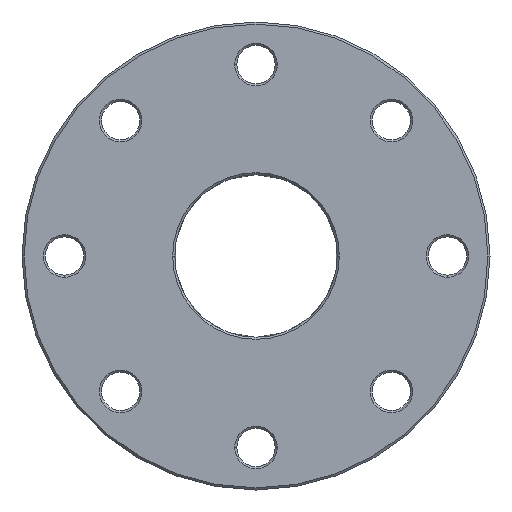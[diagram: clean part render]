
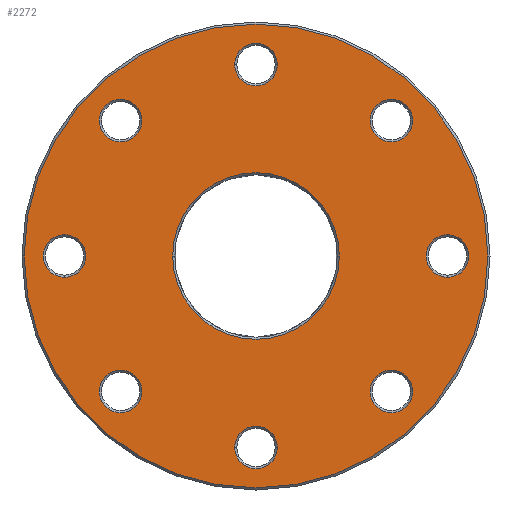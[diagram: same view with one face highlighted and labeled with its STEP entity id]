
A CAD part, front view. The second image highlights one B-rep face of the part: STEP entity #2272.
In plain terms, the highlighted planar face has unit normal (0, -1, 0).
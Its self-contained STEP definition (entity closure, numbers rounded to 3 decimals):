
#646=CARTESIAN_POINT('',(0.,-1.348,0.));
#647=DIRECTION('',(0.,1.,0.));
#648=DIRECTION('',(1.,0.,0.));
#649=AXIS2_PLACEMENT_3D('',#646,#647,#648);
#654=CARTESIAN_POINT('',(0.,-1.348,0.));
#655=DIRECTION('',(0.,1.,0.));
#656=DIRECTION('',(-1.,0.,0.));
#657=AXIS2_PLACEMENT_3D('',#654,#655,#656);
#662=CARTESIAN_POINT('',(-90.,-1.348,0.));
#663=DIRECTION('',(0.,1.,0.));
#664=DIRECTION('',(0.,0.,-1.));
#665=AXIS2_PLACEMENT_3D('',#662,#663,#664);
#670=CARTESIAN_POINT('',(-90.,-1.348,0.));
#671=DIRECTION('',(0.,1.,0.));
#672=DIRECTION('',(0.,0.,1.));
#673=AXIS2_PLACEMENT_3D('',#670,#671,#672);
#678=CARTESIAN_POINT('',(-63.64,-1.348,-63.64));
#679=DIRECTION('',(0.,1.,0.));
#680=DIRECTION('',(-0.707,0.,0.707));
#681=AXIS2_PLACEMENT_3D('',#678,#679,#680);
#686=CARTESIAN_POINT('',(-63.64,-1.348,-63.64));
#687=DIRECTION('',(0.,1.,0.));
#688=DIRECTION('',(0.707,0.,-0.707));
#689=AXIS2_PLACEMENT_3D('',#686,#687,#688);
#694=CARTESIAN_POINT('',(0.,-1.348,-90.));
#695=DIRECTION('',(0.,1.,0.));
#696=DIRECTION('',(1.,0.,0.));
#697=AXIS2_PLACEMENT_3D('',#694,#695,#696);
#702=CARTESIAN_POINT('',(0.,-1.348,-90.));
#703=DIRECTION('',(0.,1.,0.));
#704=DIRECTION('',(-1.,0.,0.));
#705=AXIS2_PLACEMENT_3D('',#702,#703,#704);
#710=CARTESIAN_POINT('',(63.64,-1.348,-63.64));
#711=DIRECTION('',(0.,1.,0.));
#712=DIRECTION('',(0.707,0.,0.707));
#713=AXIS2_PLACEMENT_3D('',#710,#711,#712);
#718=CARTESIAN_POINT('',(63.64,-1.348,-63.64));
#719=DIRECTION('',(0.,1.,0.));
#720=DIRECTION('',(-0.707,0.,-0.707));
#721=AXIS2_PLACEMENT_3D('',#718,#719,#720);
#726=CARTESIAN_POINT('',(90.,-1.348,0.));
#727=DIRECTION('',(0.,1.,0.));
#728=DIRECTION('',(0.,0.,1.));
#729=AXIS2_PLACEMENT_3D('',#726,#727,#728);
#734=CARTESIAN_POINT('',(90.,-1.348,0.));
#735=DIRECTION('',(0.,1.,0.));
#736=DIRECTION('',(0.,0.,-1.));
#737=AXIS2_PLACEMENT_3D('',#734,#735,#736);
#742=CARTESIAN_POINT('',(63.64,-1.348,63.64));
#743=DIRECTION('',(0.,1.,0.));
#744=DIRECTION('',(-0.707,0.,0.707));
#745=AXIS2_PLACEMENT_3D('',#742,#743,#744);
#750=CARTESIAN_POINT('',(63.64,-1.348,63.64));
#751=DIRECTION('',(0.,1.,0.));
#752=DIRECTION('',(0.707,0.,-0.707));
#753=AXIS2_PLACEMENT_3D('',#750,#751,#752);
#758=CARTESIAN_POINT('',(0.,-1.348,90.));
#759=DIRECTION('',(0.,1.,0.));
#760=DIRECTION('',(1.,0.,0.));
#761=AXIS2_PLACEMENT_3D('',#758,#759,#760);
#766=CARTESIAN_POINT('',(0.,-1.348,90.));
#767=DIRECTION('',(0.,1.,0.));
#768=DIRECTION('',(-1.,0.,0.));
#769=AXIS2_PLACEMENT_3D('',#766,#767,#768);
#774=CARTESIAN_POINT('',(-63.64,-1.348,63.64));
#775=DIRECTION('',(0.,1.,0.));
#776=DIRECTION('',(0.707,0.,0.707));
#777=AXIS2_PLACEMENT_3D('',#774,#775,#776);
#782=CARTESIAN_POINT('',(-63.64,-1.348,63.64));
#783=DIRECTION('',(0.,1.,0.));
#784=DIRECTION('',(-0.707,0.,-0.707));
#785=AXIS2_PLACEMENT_3D('',#782,#783,#784);
#790=CARTESIAN_POINT('',(0.,-1.348,0.));
#791=DIRECTION('',(0.,-1.,0.));
#792=DIRECTION('',(-1.,0.,0.));
#793=AXIS2_PLACEMENT_3D('',#790,#791,#792);
#798=CARTESIAN_POINT('',(0.,-1.348,0.));
#799=DIRECTION('',(0.,-1.,0.));
#800=DIRECTION('',(1.,0.,0.));
#801=AXIS2_PLACEMENT_3D('',#798,#799,#800);
#1593=CARTESIAN_POINT('',(39.158,-1.348,0.));
#1594=CARTESIAN_POINT('',(-39.158,-1.348,0.));
#1595=VERTEX_POINT('',#1593);
#1596=VERTEX_POINT('',#1594);
#1601=CARTESIAN_POINT('',(-90.,-1.348,-10.));
#1602=CARTESIAN_POINT('',(-90.,-1.348,10.));
#1603=VERTEX_POINT('',#1601);
#1604=VERTEX_POINT('',#1602);
#1609=CARTESIAN_POINT('',(-70.711,-1.348,-56.569));
#1610=CARTESIAN_POINT('',(-56.569,-1.348,-70.711));
#1611=VERTEX_POINT('',#1609);
#1612=VERTEX_POINT('',#1610);
#1617=CARTESIAN_POINT('',(10.,-1.348,-90.));
#1618=CARTESIAN_POINT('',(-10.,-1.348,-90.));
#1619=VERTEX_POINT('',#1617);
#1620=VERTEX_POINT('',#1618);
#1625=CARTESIAN_POINT('',(70.711,-1.348,-56.569));
#1626=CARTESIAN_POINT('',(56.569,-1.348,-70.711));
#1627=VERTEX_POINT('',#1625);
#1628=VERTEX_POINT('',#1626);
#1633=CARTESIAN_POINT('',(90.,-1.348,10.));
#1634=CARTESIAN_POINT('',(90.,-1.348,-10.));
#1635=VERTEX_POINT('',#1633);
#1636=VERTEX_POINT('',#1634);
#1641=CARTESIAN_POINT('',(56.569,-1.348,70.711));
#1642=CARTESIAN_POINT('',(70.711,-1.348,56.569));
#1643=VERTEX_POINT('',#1641);
#1644=VERTEX_POINT('',#1642);
#1649=CARTESIAN_POINT('',(10.,-1.348,90.));
#1650=CARTESIAN_POINT('',(-10.,-1.348,90.));
#1651=VERTEX_POINT('',#1649);
#1652=VERTEX_POINT('',#1650);
#1657=CARTESIAN_POINT('',(-56.569,-1.348,70.711));
#1658=CARTESIAN_POINT('',(-70.711,-1.348,56.569));
#1659=VERTEX_POINT('',#1657);
#1660=VERTEX_POINT('',#1658);
#1665=CARTESIAN_POINT('',(-109.,-1.348,0.));
#1666=CARTESIAN_POINT('',(109.,-1.348,0.));
#1667=VERTEX_POINT('',#1665);
#1668=VERTEX_POINT('',#1666);
#2208=CARTESIAN_POINT('',(0.,-1.348,0.));
#2209=DIRECTION('',(0.,-1.,0.));
#2210=DIRECTION('',(1.,0.,0.));
#2211=AXIS2_PLACEMENT_3D('',#2208,#2209,#2210);
#2212=PLANE('',#2211);
#2214=ORIENTED_EDGE('',*,*,#2213,.F.);
#2216=ORIENTED_EDGE('',*,*,#2215,.F.);
#2217=EDGE_LOOP('',(#2214,#2216));
#2218=FACE_OUTER_BOUND('',#2217,.F.);
#2220=ORIENTED_EDGE('',*,*,#2219,.F.);
#2222=ORIENTED_EDGE('',*,*,#2221,.F.);
#2223=EDGE_LOOP('',(#2220,#2222));
#2224=FACE_BOUND('',#2223,.F.);
#2226=ORIENTED_EDGE('',*,*,#2225,.F.);
#2228=ORIENTED_EDGE('',*,*,#2227,.F.);
#2229=EDGE_LOOP('',(#2226,#2228));
#2230=FACE_BOUND('',#2229,.F.);
#2232=ORIENTED_EDGE('',*,*,#2231,.F.);
#2234=ORIENTED_EDGE('',*,*,#2233,.F.);
#2235=EDGE_LOOP('',(#2232,#2234));
#2236=FACE_BOUND('',#2235,.F.);
#2238=ORIENTED_EDGE('',*,*,#2237,.F.);
#2240=ORIENTED_EDGE('',*,*,#2239,.F.);
#2241=EDGE_LOOP('',(#2238,#2240));
#2242=FACE_BOUND('',#2241,.F.);
#2244=ORIENTED_EDGE('',*,*,#2243,.F.);
#2246=ORIENTED_EDGE('',*,*,#2245,.F.);
#2247=EDGE_LOOP('',(#2244,#2246));
#2248=FACE_BOUND('',#2247,.F.);
#2250=ORIENTED_EDGE('',*,*,#2249,.F.);
#2252=ORIENTED_EDGE('',*,*,#2251,.F.);
#2253=EDGE_LOOP('',(#2250,#2252));
#2254=FACE_BOUND('',#2253,.F.);
#2256=ORIENTED_EDGE('',*,*,#2255,.F.);
#2258=ORIENTED_EDGE('',*,*,#2257,.F.);
#2259=EDGE_LOOP('',(#2256,#2258));
#2260=FACE_BOUND('',#2259,.F.);
#2262=ORIENTED_EDGE('',*,*,#2261,.F.);
#2264=ORIENTED_EDGE('',*,*,#2263,.F.);
#2265=EDGE_LOOP('',(#2262,#2264));
#2266=FACE_BOUND('',#2265,.F.);
#2268=ORIENTED_EDGE('',*,*,#2267,.F.);
#2269=ORIENTED_EDGE('',*,*,#2198,.F.);
#2270=EDGE_LOOP('',(#2268,#2269));
#2271=FACE_BOUND('',#2270,.F.);
#650=CIRCLE('',#649,39.158);
#658=CIRCLE('',#657,39.158);
#666=CIRCLE('',#665,10.);
#674=CIRCLE('',#673,10.);
#682=CIRCLE('',#681,10.);
#690=CIRCLE('',#689,10.);
#698=CIRCLE('',#697,10.);
#706=CIRCLE('',#705,10.);
#714=CIRCLE('',#713,10.);
#722=CIRCLE('',#721,10.);
#730=CIRCLE('',#729,10.);
#738=CIRCLE('',#737,10.);
#746=CIRCLE('',#745,10.);
#754=CIRCLE('',#753,10.);
#762=CIRCLE('',#761,10.);
#770=CIRCLE('',#769,10.);
#778=CIRCLE('',#777,10.);
#786=CIRCLE('',#785,10.);
#794=CIRCLE('',#793,109.);
#802=CIRCLE('',#801,109.);
#2198=EDGE_CURVE('',#1596,#1595,#658,.T.);
#2213=EDGE_CURVE('',#1667,#1668,#794,.T.);
#2215=EDGE_CURVE('',#1668,#1667,#802,.T.);
#2219=EDGE_CURVE('',#1603,#1604,#666,.T.);
#2221=EDGE_CURVE('',#1604,#1603,#674,.T.);
#2225=EDGE_CURVE('',#1611,#1612,#682,.T.);
#2227=EDGE_CURVE('',#1612,#1611,#690,.T.);
#2231=EDGE_CURVE('',#1619,#1620,#698,.T.);
#2233=EDGE_CURVE('',#1620,#1619,#706,.T.);
#2237=EDGE_CURVE('',#1627,#1628,#714,.T.);
#2239=EDGE_CURVE('',#1628,#1627,#722,.T.);
#2243=EDGE_CURVE('',#1635,#1636,#730,.T.);
#2245=EDGE_CURVE('',#1636,#1635,#738,.T.);
#2249=EDGE_CURVE('',#1643,#1644,#746,.T.);
#2251=EDGE_CURVE('',#1644,#1643,#754,.T.);
#2255=EDGE_CURVE('',#1651,#1652,#762,.T.);
#2257=EDGE_CURVE('',#1652,#1651,#770,.T.);
#2261=EDGE_CURVE('',#1659,#1660,#778,.T.);
#2263=EDGE_CURVE('',#1660,#1659,#786,.T.);
#2267=EDGE_CURVE('',#1595,#1596,#650,.T.);
#2272=ADVANCED_FACE('',(#2218,#2224,#2230,#2236,#2242,#2248,#2254,#2260,#2266,
#2271),#2212,.T.);
